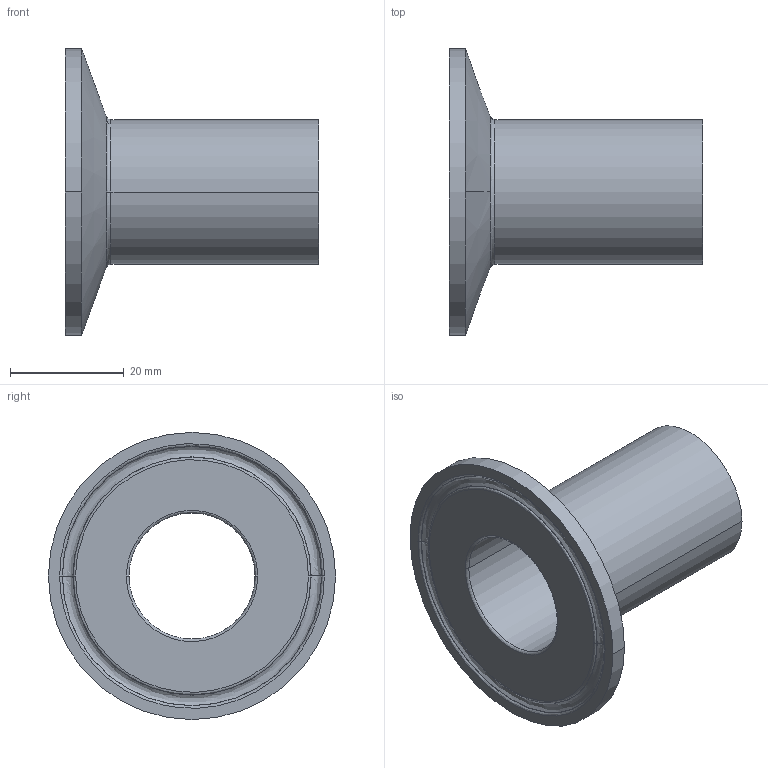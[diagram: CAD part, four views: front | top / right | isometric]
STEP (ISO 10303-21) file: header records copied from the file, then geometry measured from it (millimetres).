
FILE_DESCRIPTION (( 'STEP AP214' ), '1' );
FILE_NAME ('TEG14AM76L1.0_ TYPE B.STEP', '2016-05-23T03:49:09', ( 'eran' ), ( '' ), 'SwSTEP 2.0', 'SolidWorks 2016', '' );
FILE_SCHEMA (( 'AUTOMOTIVE_DESIGN' ));
Length unit declared in the file: millimetre
Products named in the file (1): TEG14AM76L1.0_ TYPE B
Bounding box: 44.5 x 50.39 x 50.39 mm (x, y, z)
Volume: 12551 mm3; surface area: 9870.8 mm2
Topology: 1 solids, 1 shells, 25 faces, 62 edges, 40 vertices
Faces by surface type: bspline 10, cylinder 6, cone 6, plane 3
Entity records: 1419 total; most frequent: CARTESIAN_POINT 794, DIRECTION 132, ORIENTED_EDGE 124, EDGE_CURVE 62, AXIS2_PLACEMENT_3D 60, CIRCLE 44, VERTEX_POINT 40, EDGE_LOOP 28
